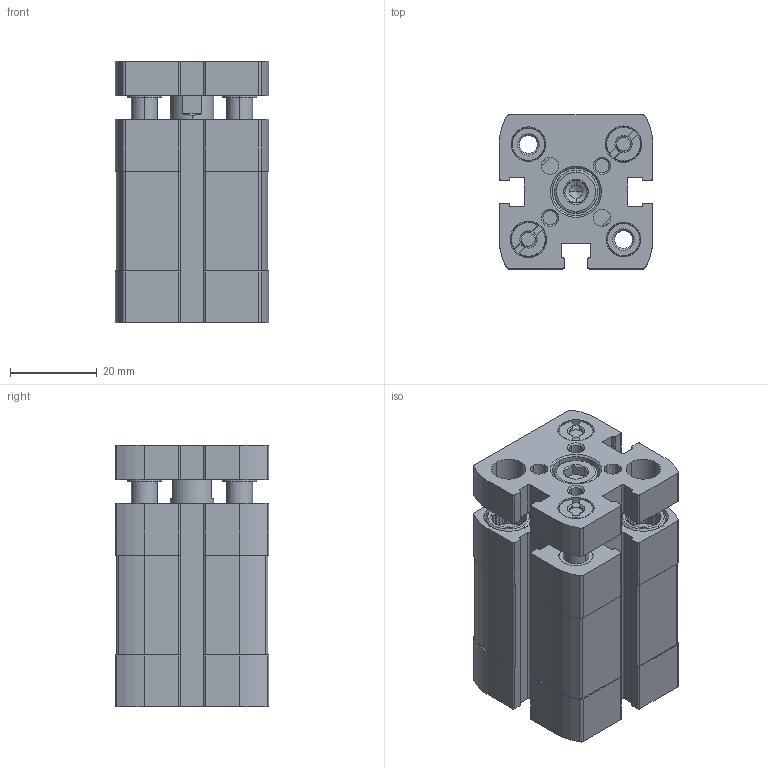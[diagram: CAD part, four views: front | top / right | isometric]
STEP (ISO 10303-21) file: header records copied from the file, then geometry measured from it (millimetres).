
FILE_DESCRIPTION (( 'STEP AP203' ), '1' );
FILE_NAME ('CCNG20-10.STEP', '2017-04-13T17:58:48', ( '' ), ( '' ), 'SwSTEP 2.0', 'SolidWorks 2016', '' );
FILE_SCHEMA (( 'CONFIG_CONTROL_DESIGN' ));
Length unit declared in the file: millimetre
Products named in the file (3): CCNG-20-10--(Z); CCNG-20-10--(KS); CCNG20-10
Assembly tree (2 placements, depth 2):
  CCNG20-10
    CCNG-20-10--(Z)
    CCNG-20-10--(KS)
Bounding box: 35.5 x 35.5 x 60.5 mm (x, y, z)
Volume: 54362.7 mm3; surface area: 26161.1 mm2
Topology: 2 solids, 6 shells, 598 faces, 1575 edges, 1025 vertices
Faces by surface type: plane 301, cylinder 214, cone 77, bspline 6
Entity records: 19170 total; most frequent: CARTESIAN_POINT 3736, DIRECTION 3263, ORIENTED_EDGE 3146, EDGE_CURVE 1573, AXIS2_PLACEMENT_3D 1226, VERTEX_POINT 1025, LINE 811, VECTOR 811
